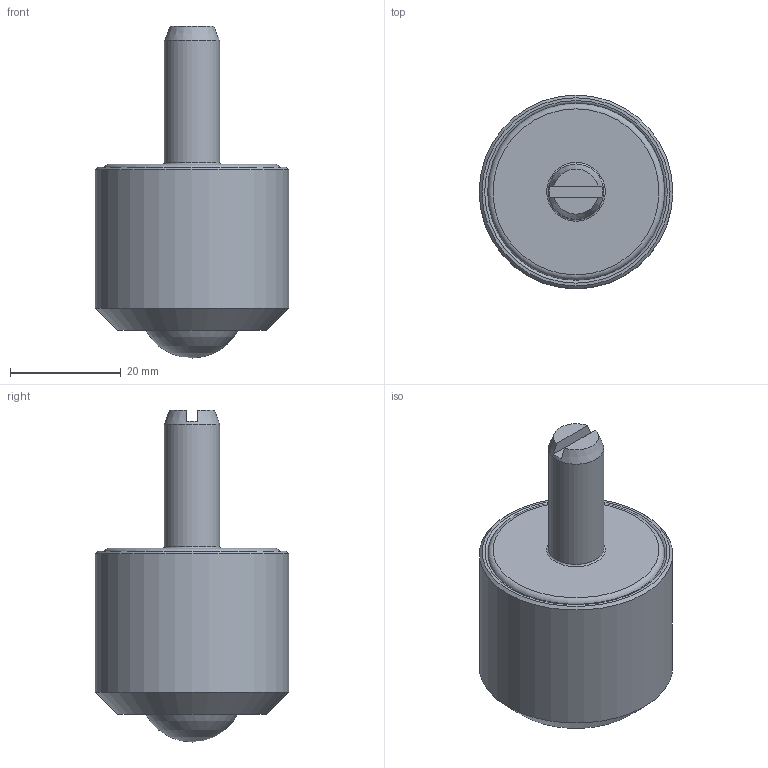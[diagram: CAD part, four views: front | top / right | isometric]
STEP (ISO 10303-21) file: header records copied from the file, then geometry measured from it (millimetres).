
FILE_DESCRIPTION(/* description */ (''),/* implementation_level */ '2;1');
FILE_NAME(/* name */ 'Z:\80-CAD共有ファイル\製品3D\X2\30C730FC30BF\X0\\13-IK-NM\IK-19NM.stp',/* time_stamp */ '2015-01-07T09:42:11+09:00',/* author */ ('yamaki'),/* organization */ (''),/* preprocessor_version */ 'ST-DEVELOPER v15.6',/* originating_system */ 'Autodesk Inventor 2015',/* authorisation */ '');
FILE_SCHEMA (('AUTOMOTIVE_DESIGN { 1 0 10303 214 3 1 1 }'));
Length unit declared in the file: millimetre
Products named in the file (1): 1319AA
Bounding box: 35 x 35 x 60 mm (x, y, z)
Volume: 30074.6 mm3; surface area: 6974.7 mm2
Topology: 1 solids, 1 shells, 22 faces, 44 edges, 27 vertices
Faces by surface type: plane 9, cone 4, torus 4, cylinder 4, sphere 1
Full cylindrical faces by diameter (mm): 10 x1, 17.8 x1, 20 x1, 35 x1
Entity records: 529 total; most frequent: DIRECTION 90, CARTESIAN_POINT 83, ORIENTED_EDGE 56, AXIS2_PLACEMENT_3D 43, EDGE_LOOP 38, EDGE_CURVE 28, VERTEX_POINT 24, STYLED_ITEM 23
